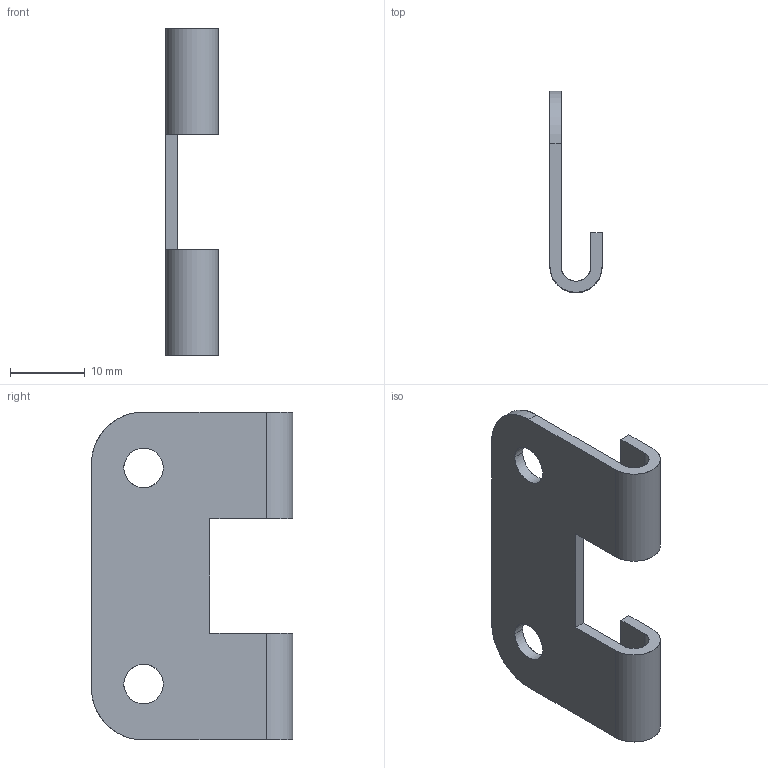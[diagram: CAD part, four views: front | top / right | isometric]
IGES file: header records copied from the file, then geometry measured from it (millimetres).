
Start section: SolidWorks IGES file using analytic representation for surfaces
Global section: file name: Z:\Mes documents\ATAO iges\Gamme CX\CX 421\421.010.00.IGS; native system: SolidWorks 2008; preprocessor: SolidWorks 2008; author: cbrechard; date: 110629.085718; units: millimetre
Bounding box: 7 x 27 x 44 mm (x, y, z)
Surface area: 2800.7 mm2 (no closed solid volume)
Topology: 0 solids, 0 shells, 24 faces, 400 edges, 400 vertices
Faces by surface type: bspline 14, revolution 10
